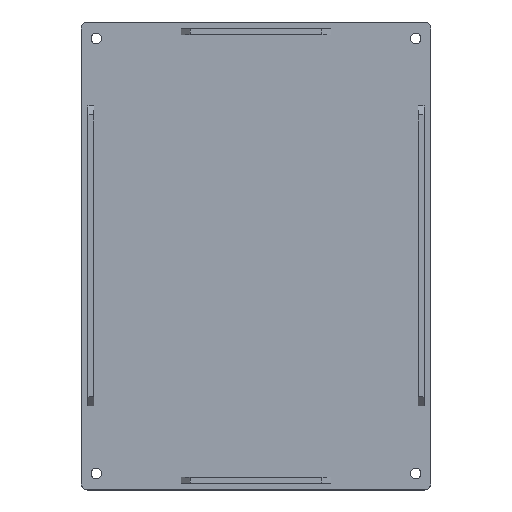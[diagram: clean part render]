
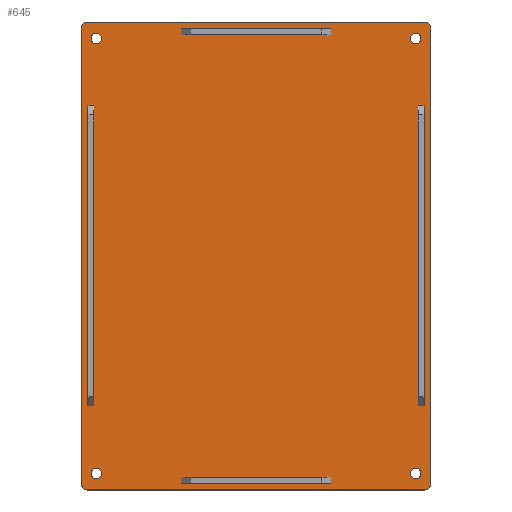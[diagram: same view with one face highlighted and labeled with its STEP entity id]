
A CAD part, top view. The second image highlights one B-rep face of the part: STEP entity #645.
In plain terms, the highlighted planar face has unit normal (0, 0, 1).
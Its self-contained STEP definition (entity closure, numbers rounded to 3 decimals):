
#36=FACE_BOUND('',#136,.T.);
#37=FACE_BOUND('',#137,.T.);
#38=FACE_BOUND('',#138,.T.);
#39=FACE_BOUND('',#139,.T.);
#40=FACE_BOUND('',#140,.T.);
#41=FACE_BOUND('',#141,.T.);
#42=FACE_BOUND('',#142,.T.);
#43=FACE_BOUND('',#143,.T.);
#49=CIRCLE('',#678,1.75);
#51=CIRCLE('',#681,1.75);
#53=CIRCLE('',#684,1.75);
#55=CIRCLE('',#687,1.75);
#56=CIRCLE('',#689,2.);
#58=CIRCLE('',#692,2.);
#59=CIRCLE('',#693,2.);
#60=CIRCLE('',#694,2.);
#97=FACE_OUTER_BOUND('',#135,.T.);
#135=EDGE_LOOP('',(#526,#527,#528,#529,#530,#531,#532,#533));
#136=EDGE_LOOP('',(#534,#535,#536,#537));
#137=EDGE_LOOP('',(#538,#539,#540,#541));
#138=EDGE_LOOP('',(#542,#543,#544,#545));
#139=EDGE_LOOP('',(#546,#547,#548,#549));
#140=EDGE_LOOP('',(#550));
#141=EDGE_LOOP('',(#551));
#142=EDGE_LOOP('',(#552));
#143=EDGE_LOOP('',(#553));
#159=LINE('',#888,#230);
#162=LINE('',#894,#233);
#166=LINE('',#902,#237);
#170=LINE('',#911,#241);
#173=LINE('',#917,#244);
#177=LINE('',#925,#248);
#178=LINE('',#927,#249);
#179=LINE('',#929,#250);
#183=LINE('',#938,#254);
#186=LINE('',#944,#257);
#190=LINE('',#952,#261);
#194=LINE('',#961,#265);
#197=LINE('',#967,#268);
#201=LINE('',#975,#272);
#202=LINE('',#977,#273);
#203=LINE('',#979,#274);
#206=LINE('',#1011,#277);
#207=LINE('',#1015,#278);
#208=LINE('',#1019,#279);
#209=LINE('',#1022,#280);
#230=VECTOR('',#713,10.);
#233=VECTOR('',#718,10.);
#237=VECTOR('',#726,10.);
#241=VECTOR('',#732,10.);
#244=VECTOR('',#737,10.);
#248=VECTOR('',#745,10.);
#249=VECTOR('',#748,10.);
#250=VECTOR('',#751,10.);
#254=VECTOR('',#757,10.);
#257=VECTOR('',#762,10.);
#261=VECTOR('',#770,10.);
#265=VECTOR('',#776,10.);
#268=VECTOR('',#781,10.);
#272=VECTOR('',#789,10.);
#273=VECTOR('',#792,10.);
#274=VECTOR('',#795,10.);
#277=VECTOR('',#830,10.);
#278=VECTOR('',#833,10.);
#279=VECTOR('',#836,10.);
#280=VECTOR('',#839,10.);
#298=VERTEX_POINT('',#881);
#301=VERTEX_POINT('',#886);
#303=VERTEX_POINT('',#892);
#305=VERTEX_POINT('',#900);
#306=VERTEX_POINT('',#904);
#309=VERTEX_POINT('',#909);
#311=VERTEX_POINT('',#915);
#313=VERTEX_POINT('',#923);
#314=VERTEX_POINT('',#931);
#317=VERTEX_POINT('',#936);
#319=VERTEX_POINT('',#942);
#321=VERTEX_POINT('',#950);
#322=VERTEX_POINT('',#954);
#325=VERTEX_POINT('',#959);
#327=VERTEX_POINT('',#965);
#329=VERTEX_POINT('',#973);
#331=VERTEX_POINT('',#983);
#333=VERTEX_POINT('',#988);
#335=VERTEX_POINT('',#993);
#337=VERTEX_POINT('',#998);
#338=VERTEX_POINT('',#1001);
#339=VERTEX_POINT('',#1002);
#342=VERTEX_POINT('',#1010);
#343=VERTEX_POINT('',#1012);
#344=VERTEX_POINT('',#1014);
#345=VERTEX_POINT('',#1016);
#346=VERTEX_POINT('',#1018);
#347=VERTEX_POINT('',#1020);
#357=EDGE_CURVE('',#298,#301,#159,.T.);
#360=EDGE_CURVE('',#301,#303,#162,.T.);
#364=EDGE_CURVE('',#303,#305,#166,.T.);
#368=EDGE_CURVE('',#306,#309,#170,.T.);
#371=EDGE_CURVE('',#309,#311,#173,.T.);
#375=EDGE_CURVE('',#311,#313,#177,.T.);
#376=EDGE_CURVE('',#313,#306,#178,.T.);
#377=EDGE_CURVE('',#305,#298,#179,.T.);
#381=EDGE_CURVE('',#314,#317,#183,.T.);
#384=EDGE_CURVE('',#317,#319,#186,.T.);
#388=EDGE_CURVE('',#319,#321,#190,.T.);
#392=EDGE_CURVE('',#322,#325,#194,.T.);
#395=EDGE_CURVE('',#325,#327,#197,.T.);
#399=EDGE_CURVE('',#327,#329,#201,.T.);
#400=EDGE_CURVE('',#321,#314,#202,.T.);
#401=EDGE_CURVE('',#329,#322,#203,.T.);
#403=EDGE_CURVE('',#331,#331,#49,.T.);
#405=EDGE_CURVE('',#333,#333,#51,.T.);
#407=EDGE_CURVE('',#335,#335,#53,.T.);
#409=EDGE_CURVE('',#337,#337,#55,.T.);
#410=EDGE_CURVE('',#338,#339,#56,.T.);
#414=EDGE_CURVE('',#338,#342,#206,.T.);
#415=EDGE_CURVE('',#343,#342,#58,.T.);
#416=EDGE_CURVE('',#343,#344,#207,.T.);
#417=EDGE_CURVE('',#345,#344,#59,.T.);
#418=EDGE_CURVE('',#345,#346,#208,.T.);
#419=EDGE_CURVE('',#347,#346,#60,.T.);
#420=EDGE_CURVE('',#347,#339,#209,.T.);
#526=ORIENTED_EDGE('',*,*,#410,.F.);
#527=ORIENTED_EDGE('',*,*,#414,.T.);
#528=ORIENTED_EDGE('',*,*,#415,.F.);
#529=ORIENTED_EDGE('',*,*,#416,.T.);
#530=ORIENTED_EDGE('',*,*,#417,.F.);
#531=ORIENTED_EDGE('',*,*,#418,.T.);
#532=ORIENTED_EDGE('',*,*,#419,.F.);
#533=ORIENTED_EDGE('',*,*,#420,.T.);
#534=ORIENTED_EDGE('',*,*,#375,.T.);
#535=ORIENTED_EDGE('',*,*,#376,.T.);
#536=ORIENTED_EDGE('',*,*,#368,.T.);
#537=ORIENTED_EDGE('',*,*,#371,.T.);
#538=ORIENTED_EDGE('',*,*,#357,.T.);
#539=ORIENTED_EDGE('',*,*,#360,.T.);
#540=ORIENTED_EDGE('',*,*,#364,.T.);
#541=ORIENTED_EDGE('',*,*,#377,.T.);
#542=ORIENTED_EDGE('',*,*,#384,.T.);
#543=ORIENTED_EDGE('',*,*,#388,.T.);
#544=ORIENTED_EDGE('',*,*,#400,.T.);
#545=ORIENTED_EDGE('',*,*,#381,.T.);
#546=ORIENTED_EDGE('',*,*,#395,.T.);
#547=ORIENTED_EDGE('',*,*,#399,.T.);
#548=ORIENTED_EDGE('',*,*,#401,.T.);
#549=ORIENTED_EDGE('',*,*,#392,.T.);
#550=ORIENTED_EDGE('',*,*,#403,.T.);
#551=ORIENTED_EDGE('',*,*,#405,.T.);
#552=ORIENTED_EDGE('',*,*,#407,.T.);
#553=ORIENTED_EDGE('',*,*,#409,.T.);
#614=PLANE('',#691);
#645=ADVANCED_FACE('',(#97,#36,#37,#38,#39,#40,#41,#42,#43),#614,.T.);
#678=AXIS2_PLACEMENT_3D('',#984,#800,#801);
#681=AXIS2_PLACEMENT_3D('',#989,#806,#807);
#684=AXIS2_PLACEMENT_3D('',#994,#812,#813);
#687=AXIS2_PLACEMENT_3D('',#999,#818,#819);
#689=AXIS2_PLACEMENT_3D('',#1003,#822,#823);
#691=AXIS2_PLACEMENT_3D('',#1009,#828,#829);
#692=AXIS2_PLACEMENT_3D('',#1013,#831,#832);
#693=AXIS2_PLACEMENT_3D('',#1017,#834,#835);
#694=AXIS2_PLACEMENT_3D('',#1021,#837,#838);
#713=DIRECTION('',(0.,-1.,0.));
#718=DIRECTION('',(-1.,0.,0.));
#726=DIRECTION('',(0.,1.,0.));
#732=DIRECTION('',(0.,1.,0.));
#737=DIRECTION('',(1.,0.,0.));
#745=DIRECTION('',(0.,-1.,0.));
#748=DIRECTION('',(-1.,0.,0.));
#751=DIRECTION('',(1.,0.,0.));
#757=DIRECTION('',(1.,0.,0.));
#762=DIRECTION('',(0.,-1.,0.));
#770=DIRECTION('',(-1.,0.,0.));
#776=DIRECTION('',(1.,0.,0.));
#781=DIRECTION('',(0.,-1.,0.));
#789=DIRECTION('',(-1.,0.,0.));
#792=DIRECTION('',(0.,1.,0.));
#795=DIRECTION('',(0.,1.,0.));
#800=DIRECTION('center_axis',(0.,0.,-1.));
#801=DIRECTION('ref_axis',(-1.,0.,0.));
#806=DIRECTION('center_axis',(0.,0.,-1.));
#807=DIRECTION('ref_axis',(-1.,0.,0.));
#812=DIRECTION('center_axis',(0.,0.,-1.));
#813=DIRECTION('ref_axis',(-1.,0.,0.));
#818=DIRECTION('center_axis',(0.,0.,-1.));
#819=DIRECTION('ref_axis',(-1.,0.,0.));
#822=DIRECTION('center_axis',(0.,0.,-1.));
#823=DIRECTION('ref_axis',(-0.707,-0.707,0.));
#828=DIRECTION('center_axis',(0.,0.,1.));
#829=DIRECTION('ref_axis',(1.,0.,0.));
#830=DIRECTION('',(1.,0.,0.));
#831=DIRECTION('center_axis',(0.,0.,-1.));
#832=DIRECTION('ref_axis',(0.707,-0.707,0.));
#833=DIRECTION('',(0.,1.,0.));
#834=DIRECTION('center_axis',(0.,0.,-1.));
#835=DIRECTION('ref_axis',(0.707,0.707,0.));
#836=DIRECTION('',(-1.,0.,0.));
#837=DIRECTION('center_axis',(0.,0.,-1.));
#838=DIRECTION('ref_axis',(-0.707,0.707,0.));
#839=DIRECTION('',(0.,-1.,0.));
#881=CARTESIAN_POINT('',(-33.25,-151.8,3.));
#886=CARTESIAN_POINT('',(-33.25,-153.8,3.));
#888=CARTESIAN_POINT('',(-33.25,-115.9,3.));
#892=CARTESIAN_POINT('',(-83.25,-153.8,3.));
#894=CARTESIAN_POINT('',(-70.75,-153.8,3.));
#900=CARTESIAN_POINT('',(-83.25,-151.8,3.));
#902=CARTESIAN_POINT('',(-83.25,-114.9,3.));
#904=CARTESIAN_POINT('',(-83.25,-4.2,3.));
#909=CARTESIAN_POINT('',(-83.25,-2.2,3.));
#911=CARTESIAN_POINT('',(-83.25,-40.1,3.));
#915=CARTESIAN_POINT('',(-33.25,-2.2,3.));
#917=CARTESIAN_POINT('',(-45.75,-2.2,3.));
#923=CARTESIAN_POINT('',(-33.25,-4.2,3.));
#925=CARTESIAN_POINT('',(-33.25,-41.1,3.));
#927=CARTESIAN_POINT('',(-70.75,-4.2,3.));
#929=CARTESIAN_POINT('',(-45.75,-151.8,3.));
#931=CARTESIAN_POINT('',(-114.3,-28.,3.));
#936=CARTESIAN_POINT('',(-112.3,-28.,3.));
#938=CARTESIAN_POINT('',(-85.275,-28.,3.));
#942=CARTESIAN_POINT('',(-112.3,-128.,3.));
#944=CARTESIAN_POINT('',(-112.3,-103.,3.));
#950=CARTESIAN_POINT('',(-114.3,-128.,3.));
#952=CARTESIAN_POINT('',(-86.275,-128.,3.));
#954=CARTESIAN_POINT('',(-4.2,-28.,3.));
#959=CARTESIAN_POINT('',(-2.2,-28.,3.));
#961=CARTESIAN_POINT('',(-30.225,-28.,3.));
#965=CARTESIAN_POINT('',(-2.2,-128.,3.));
#967=CARTESIAN_POINT('',(-2.2,-103.,3.));
#973=CARTESIAN_POINT('',(-4.2,-128.,3.));
#975=CARTESIAN_POINT('',(-31.225,-128.,3.));
#977=CARTESIAN_POINT('',(-114.3,-53.,3.));
#979=CARTESIAN_POINT('',(-4.2,-53.,3.));
#983=CARTESIAN_POINT('',(-109.75,-150.5,3.));
#984=CARTESIAN_POINT('Origin',(-111.5,-150.5,3.));
#988=CARTESIAN_POINT('',(-109.75,-5.5,3.));
#989=CARTESIAN_POINT('Origin',(-111.5,-5.5,3.));
#993=CARTESIAN_POINT('',(-3.25,-5.5,3.));
#994=CARTESIAN_POINT('Origin',(-5.,-5.5,3.));
#998=CARTESIAN_POINT('',(-3.25,-150.5,3.));
#999=CARTESIAN_POINT('Origin',(-5.,-150.5,3.));
#1001=CARTESIAN_POINT('',(-114.5,-156.,3.));
#1002=CARTESIAN_POINT('',(-116.5,-154.,3.));
#1003=CARTESIAN_POINT('Origin',(-114.5,-154.,3.));
#1009=CARTESIAN_POINT('Origin',(-58.25,-78.,3.));
#1010=CARTESIAN_POINT('',(-2.,-156.,3.));
#1011=CARTESIAN_POINT('',(-116.5,-156.,3.));
#1012=CARTESIAN_POINT('',(0.,-154.,3.));
#1013=CARTESIAN_POINT('Origin',(-2.,-154.,3.));
#1014=CARTESIAN_POINT('',(0.,-2.,3.));
#1015=CARTESIAN_POINT('',(0.,-156.,3.));
#1016=CARTESIAN_POINT('',(-2.,0.,3.));
#1017=CARTESIAN_POINT('Origin',(-2.,-2.,3.));
#1018=CARTESIAN_POINT('',(-114.5,0.,3.));
#1019=CARTESIAN_POINT('',(0.,0.,3.));
#1020=CARTESIAN_POINT('',(-116.5,-2.,3.));
#1021=CARTESIAN_POINT('Origin',(-114.5,-2.,3.));
#1022=CARTESIAN_POINT('',(-116.5,0.,3.));
